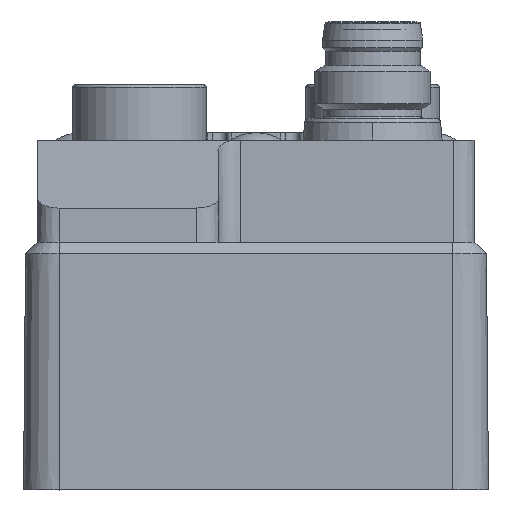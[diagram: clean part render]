
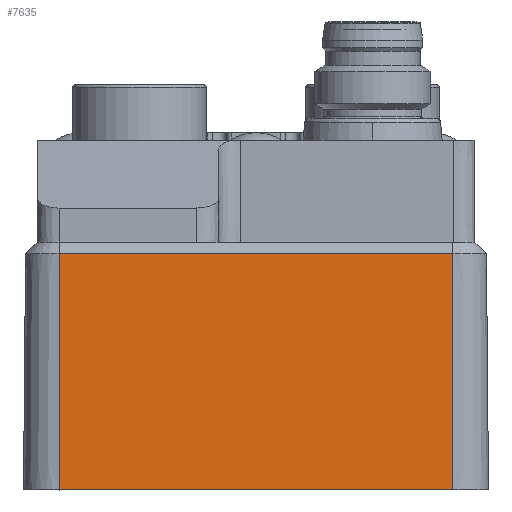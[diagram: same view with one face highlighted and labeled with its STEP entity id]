
A CAD part, front view. The second image highlights one B-rep face of the part: STEP entity #7635.
In plain terms, the highlighted planar face has unit normal (0, -1, 0.009).
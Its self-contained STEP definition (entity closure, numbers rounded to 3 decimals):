
#218 = DIRECTION ( 'NONE',  ( 0., 0.009, 1. ) ) ;
#828 = CARTESIAN_POINT ( 'NONE',  ( 20., 0.142, 16.215 ) ) ;
#1500 = CARTESIAN_POINT ( 'NONE',  ( -13.5, 0., 0. ) ) ;
#1722 = CARTESIAN_POINT ( 'NONE',  ( -13.5, 0.142, 16.215 ) ) ;
#2267 = PLANE ( 'NONE',  #2700 ) ;
#2379 = VERTEX_POINT ( 'NONE', #11486 ) ;
#2391 = VERTEX_POINT ( 'NONE', #1500 ) ;
#2583 = LINE ( 'NONE', #1722, #13591 ) ;
#2700 = AXIS2_PLACEMENT_3D ( 'NONE', #828, #8040, #18097 ) ;
#2877 = LINE ( 'NONE', #10684, #6707 ) ;
#5842 = FACE_OUTER_BOUND ( 'NONE', #7532, .T. ) ;
#5923 = CARTESIAN_POINT ( 'NONE',  ( 20., 0.142, 16.215 ) ) ;
#6707 = VECTOR ( 'NONE', #15089, 1000. ) ;
#6983 = VECTOR ( 'NONE', #14522, 1000. ) ;
#7401 = EDGE_CURVE ( 'NONE', #2379, #7858, #10344, .T. ) ;
#7532 = EDGE_LOOP ( 'NONE', ( #10676, #14331, #7639, #8356 ) ) ;
#7635 = ADVANCED_FACE ( 'NONE', ( #5842 ), #2267, .F. ) ;
#7639 = ORIENTED_EDGE ( 'NONE', *, *, #17820, .F. ) ;
#7858 = VERTEX_POINT ( 'NONE', #11614 ) ;
#8040 = DIRECTION ( 'NONE',  ( 0., 1., -0.009 ) ) ;
#8356 = ORIENTED_EDGE ( 'NONE', *, *, #7401, .F. ) ;
#9523 = CARTESIAN_POINT ( 'NONE',  ( 15.948, 0., 0. ) ) ;
#9768 = EDGE_CURVE ( 'NONE', #2391, #2379, #2583, .T. ) ;
#10286 = VERTEX_POINT ( 'NONE', #18649 ) ;
#10344 = LINE ( 'NONE', #5923, #6983 ) ;
#10676 = ORIENTED_EDGE ( 'NONE', *, *, #9768, .F. ) ;
#10684 = CARTESIAN_POINT ( 'NONE',  ( 13.5, -4354.707, -499000. ) ) ;
#10973 = DIRECTION ( 'NONE',  ( 1., 0., 0. ) ) ;
#11486 = CARTESIAN_POINT ( 'NONE',  ( -13.5, 0.142, 16.215 ) ) ;
#11614 = CARTESIAN_POINT ( 'NONE',  ( 13.5, 0.142, 16.215 ) ) ;
#13591 = VECTOR ( 'NONE', #218, 1000. ) ;
#14331 = ORIENTED_EDGE ( 'NONE', *, *, #17328, .T. ) ;
#14522 = DIRECTION ( 'NONE',  ( 1., 0., 0. ) ) ;
#15089 = DIRECTION ( 'NONE',  ( 0., -0.009, -1. ) ) ;
#17110 = VECTOR ( 'NONE', #10973, 1000. ) ;
#17328 = EDGE_CURVE ( 'NONE', #2391, #10286, #17549, .T. ) ;
#17549 = LINE ( 'NONE', #9523, #17110 ) ;
#17820 = EDGE_CURVE ( 'NONE', #7858, #10286, #2877, .T. ) ;
#18097 = DIRECTION ( 'NONE',  ( 0., 0.009, 1. ) ) ;
#18649 = CARTESIAN_POINT ( 'NONE',  ( 13.5, 0., 0. ) ) ;
